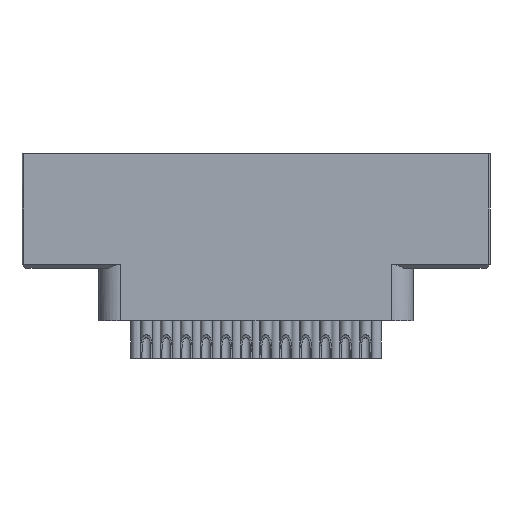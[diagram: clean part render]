
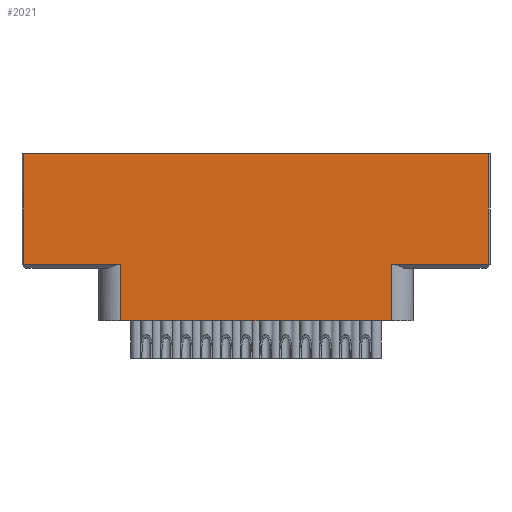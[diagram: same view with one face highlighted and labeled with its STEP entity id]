
A CAD part, front view. The second image highlights one B-rep face of the part: STEP entity #2021.
In plain terms, the highlighted planar face has unit normal (0, -1, 0).
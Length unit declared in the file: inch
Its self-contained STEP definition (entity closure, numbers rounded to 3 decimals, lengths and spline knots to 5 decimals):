
#20 = CARTESIAN_POINT ( 'NONE',  ( -0.5825, -0.13, -0.043 ) ) ;
#96 = VECTOR ( 'NONE', #19385, 39.37008 ) ;
#106 = ORIENTED_EDGE ( 'NONE', *, *, #4374, .T. ) ;
#556 = EDGE_CURVE ( 'NONE', #4296, #19365, #15833, .T. ) ;
#940 = LINE ( 'NONE', #14440, #5757 ) ;
#1103 = DIRECTION ( 'NONE',  ( 0., -1., 0. ) ) ;
#1113 = LINE ( 'NONE', #4079, #15010 ) ;
#1115 = CARTESIAN_POINT ( 'NONE',  ( 0.5825, -0.13, -0.043 ) ) ;
#1369 = VECTOR ( 'NONE', #5944, 39.37008 ) ;
#1472 = AXIS2_PLACEMENT_3D ( 'NONE', #22979, #1103, #15601 ) ;
#1780 = ORIENTED_EDGE ( 'NONE', *, *, #9771, .T. ) ;
#1989 = CARTESIAN_POINT ( 'NONE',  ( -0.339, -0.13, -0.184 ) ) ;
#2021 = ADVANCED_FACE ( 'NONE', ( #14927 ), #15760, .T. ) ;
#2101 = DIRECTION ( 'NONE',  ( 0., 0., 1. ) ) ;
#2285 = VECTOR ( 'NONE', #19081, 39.37008 ) ;
#2979 = DIRECTION ( 'NONE',  ( -1., 0., 0. ) ) ;
#3842 = CARTESIAN_POINT ( 'NONE',  ( 0.5825, -0.13, 0.235 ) ) ;
#4079 = CARTESIAN_POINT ( 'NONE',  ( 0.5875, -0.13, -0.043 ) ) ;
#4296 = VERTEX_POINT ( 'NONE', #1989 ) ;
#4325 = LINE ( 'NONE', #20951, #18833 ) ;
#4374 = EDGE_CURVE ( 'NONE', #20043, #12920, #21986, .T. ) ;
#5245 = CARTESIAN_POINT ( 'NONE',  ( -0.339, -0.13, -0.043 ) ) ;
#5757 = VECTOR ( 'NONE', #14445, 39.37008 ) ;
#5815 = VECTOR ( 'NONE', #7441, 39.37008 ) ;
#5944 = DIRECTION ( 'NONE',  ( 1., 0., 0. ) ) ;
#6816 = ORIENTED_EDGE ( 'NONE', *, *, #556, .T. ) ;
#7441 = DIRECTION ( 'NONE',  ( 0., 0., 1. ) ) ;
#8216 = CARTESIAN_POINT ( 'NONE',  ( 0.5875, -0.13, -0.043 ) ) ;
#8846 = ORIENTED_EDGE ( 'NONE', *, *, #17858, .T. ) ;
#9771 = EDGE_CURVE ( 'NONE', #17611, #20043, #9792, .T. ) ;
#9792 = LINE ( 'NONE', #18846, #96 ) ;
#10079 = CARTESIAN_POINT ( 'NONE',  ( 0.339, -0.13, -0.184 ) ) ;
#10624 = LINE ( 'NONE', #18331, #5815 ) ;
#11984 = EDGE_CURVE ( 'NONE', #12920, #14684, #940, .T. ) ;
#12260 = VECTOR ( 'NONE', #2979, 39.37008 ) ;
#12452 = EDGE_CURVE ( 'NONE', #4296, #16274, #4325, .T. ) ;
#12626 = CARTESIAN_POINT ( 'NONE',  ( 0.5875, -0.13, 0.235 ) ) ;
#12841 = ORIENTED_EDGE ( 'NONE', *, *, #11984, .T. ) ;
#12920 = VERTEX_POINT ( 'NONE', #21551 ) ;
#13321 = VERTEX_POINT ( 'NONE', #15306 ) ;
#13371 = EDGE_CURVE ( 'NONE', #13321, #17611, #17351, .T. ) ;
#14440 = CARTESIAN_POINT ( 'NONE',  ( -0.5825, -0.13, -0.053 ) ) ;
#14445 = DIRECTION ( 'NONE',  ( 0., 0., -1. ) ) ;
#14684 = VERTEX_POINT ( 'NONE', #20 ) ;
#14927 = FACE_OUTER_BOUND ( 'NONE', #19452, .T. ) ;
#15010 = VECTOR ( 'NONE', #16766, 39.37008 ) ;
#15306 = CARTESIAN_POINT ( 'NONE',  ( 0.339, -0.13, -0.043 ) ) ;
#15601 = DIRECTION ( 'NONE',  ( 0., 0., 1. ) ) ;
#15760 = PLANE ( 'NONE',  #1472 ) ;
#15833 = LINE ( 'NONE', #10079, #1369 ) ;
#16274 = VERTEX_POINT ( 'NONE', #5245 ) ;
#16362 = ORIENTED_EDGE ( 'NONE', *, *, #12452, .F. ) ;
#16766 = DIRECTION ( 'NONE',  ( 1., 0., 0. ) ) ;
#17351 = LINE ( 'NONE', #8216, #2285 ) ;
#17547 = CARTESIAN_POINT ( 'NONE',  ( 0.339, -0.13, -0.184 ) ) ;
#17611 = VERTEX_POINT ( 'NONE', #1115 ) ;
#17834 = ORIENTED_EDGE ( 'NONE', *, *, #13371, .T. ) ;
#17858 = EDGE_CURVE ( 'NONE', #19365, #13321, #10624, .T. ) ;
#18240 = ORIENTED_EDGE ( 'NONE', *, *, #21609, .T. ) ;
#18331 = CARTESIAN_POINT ( 'NONE',  ( 0.339, -0.13, -1.43469 ) ) ;
#18833 = VECTOR ( 'NONE', #2101, 39.37008 ) ;
#18846 = CARTESIAN_POINT ( 'NONE',  ( 0.5825, -0.13, 0.235 ) ) ;
#19081 = DIRECTION ( 'NONE',  ( 1., 0., 0. ) ) ;
#19365 = VERTEX_POINT ( 'NONE', #17547 ) ;
#19385 = DIRECTION ( 'NONE',  ( 0., 0., 1. ) ) ;
#19452 = EDGE_LOOP ( 'NONE', ( #8846, #17834, #1780, #106, #12841, #18240, #16362, #6816 ) ) ;
#20043 = VERTEX_POINT ( 'NONE', #3842 ) ;
#20951 = CARTESIAN_POINT ( 'NONE',  ( -0.339, -0.13, -1.43469 ) ) ;
#21551 = CARTESIAN_POINT ( 'NONE',  ( -0.5825, -0.13, 0.235 ) ) ;
#21609 = EDGE_CURVE ( 'NONE', #14684, #16274, #1113, .T. ) ;
#21986 = LINE ( 'NONE', #12626, #12260 ) ;
#22979 = CARTESIAN_POINT ( 'NONE',  ( 0.5875, -0.13, 0.235 ) ) ;
